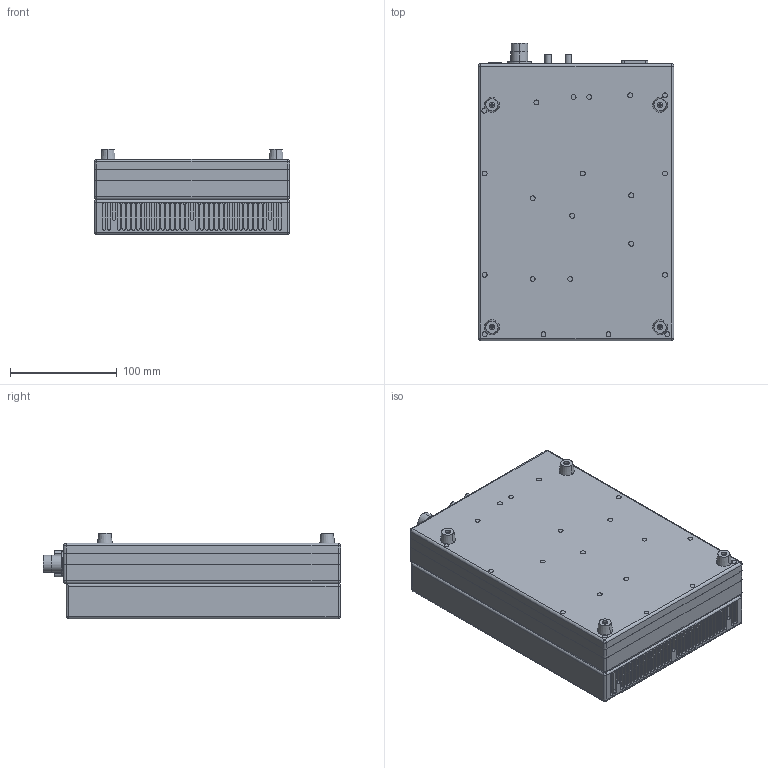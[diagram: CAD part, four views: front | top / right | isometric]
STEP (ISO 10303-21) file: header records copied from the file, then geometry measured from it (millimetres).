
FILE_DESCRIPTION (( 'STEP AP214' ), '1' );
FILE_NAME ('ASSY SM200A1-D1CM.STEP', '2021-01-08T18:20:01', ( '' ), ( '' ), 'SwSTEP 2.0', 'SolidWorks 2020', '' );
FILE_SCHEMA (( 'AUTOMOTIVE_DESIGN' ));
Length unit declared in the file: inch
Products named in the file (1): ASSY SM200A1-D1CM
Bounding box: 183.13 x 278.49 x 80.11 mm (x, y, z)
Surface area: 385517.8 mm2 (no closed solid volume)
Topology: 0 solids, 25 shells, 558 faces, 2312 edges, 1763 vertices
Faces by surface type: cylinder 269, plane 244, cone 23, sphere 22
Entity records: 32597 total; most frequent: CARTESIAN_POINT 5940, DIRECTION 4292, ORIENTED_EDGE 3347, EDGE_CURVE 2298, VERTEX_POINT 1763, AXIS2_PLACEMENT_3D 1557, LINE 1178, VECTOR 1178
